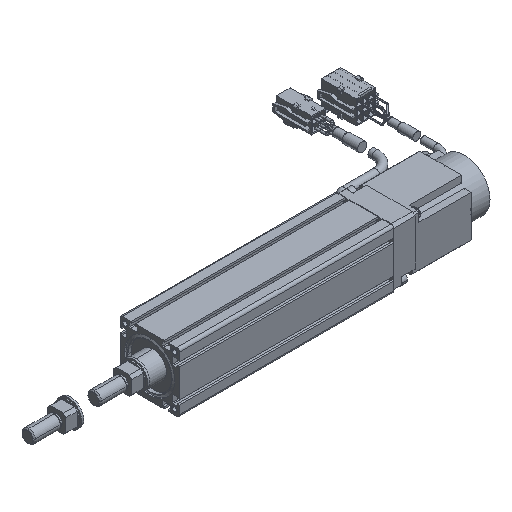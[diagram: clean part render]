
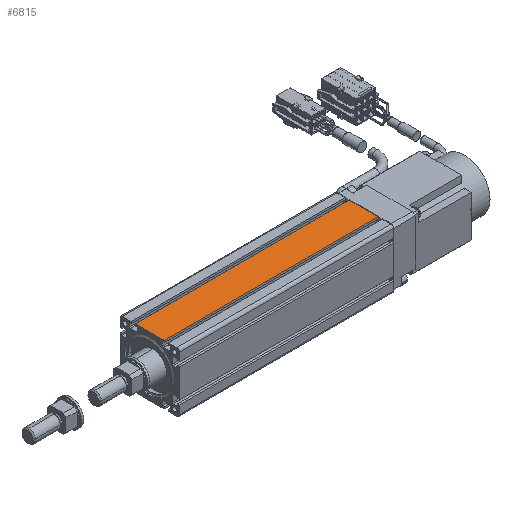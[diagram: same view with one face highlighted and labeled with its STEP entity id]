
A CAD part, isometric view. The second image highlights one B-rep face of the part: STEP entity #6815.
In plain terms, the highlighted planar face has unit normal (0, 0, 1).
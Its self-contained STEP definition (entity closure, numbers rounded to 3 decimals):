
#1447=DIRECTION('',(-1.,0.,0.));
#1448=VECTOR('',#1447,162.5);
#1449=CARTESIAN_POINT('',(-16.5,10.85,22.5));
#1450=LINE('',#1449,#1448);
#1455=DIRECTION('',(0.,-1.,0.));
#1456=VECTOR('',#1455,21.7);
#1457=CARTESIAN_POINT('',(-179.,10.85,22.5));
#1458=LINE('',#1457,#1456);
#1459=DIRECTION('',(0.,1.,0.));
#1460=VECTOR('',#1459,21.7);
#1461=CARTESIAN_POINT('',(-16.5,-10.85,22.5));
#1462=LINE('',#1461,#1460);
#1467=DIRECTION('',(1.,0.,0.));
#1468=VECTOR('',#1467,162.5);
#1469=CARTESIAN_POINT('',(-179.,-10.85,22.5));
#1470=LINE('',#1469,#1468);
#3823=CARTESIAN_POINT('',(-16.5,-10.85,22.5));
#3824=CARTESIAN_POINT('',(-16.5,10.85,22.5));
#3825=VERTEX_POINT('',#3823);
#3826=VERTEX_POINT('',#3824);
#3965=CARTESIAN_POINT('',(-179.,-10.85,22.5));
#3966=VERTEX_POINT('',#3965);
#3967=CARTESIAN_POINT('',(-179.,10.85,22.5));
#3968=VERTEX_POINT('',#3967);
#6803=CARTESIAN_POINT('',(-97.75,0.,22.5));
#6804=DIRECTION('',(0.,0.,1.));
#6805=DIRECTION('',(0.,-1.,0.));
#6806=AXIS2_PLACEMENT_3D('',#6803,#6804,#6805);
#6807=PLANE('',#6806);
#6809=ORIENTED_EDGE('',*,*,#6808,.F.);
#6810=ORIENTED_EDGE('',*,*,#6531,.F.);
#6811=ORIENTED_EDGE('',*,*,#6796,.F.);
#6812=ORIENTED_EDGE('',*,*,#5846,.F.);
#6813=EDGE_LOOP('',(#6809,#6810,#6811,#6812));
#6814=FACE_OUTER_BOUND('',#6813,.F.);
#6815=ADVANCED_FACE('',(#6814),#6807,.T.);
#5846=EDGE_CURVE('',#3825,#3826,#1462,.T.);
#6531=EDGE_CURVE('',#3968,#3966,#1458,.T.);
#6796=EDGE_CURVE('',#3826,#3968,#1450,.T.);
#6808=EDGE_CURVE('',#3966,#3825,#1470,.T.);
